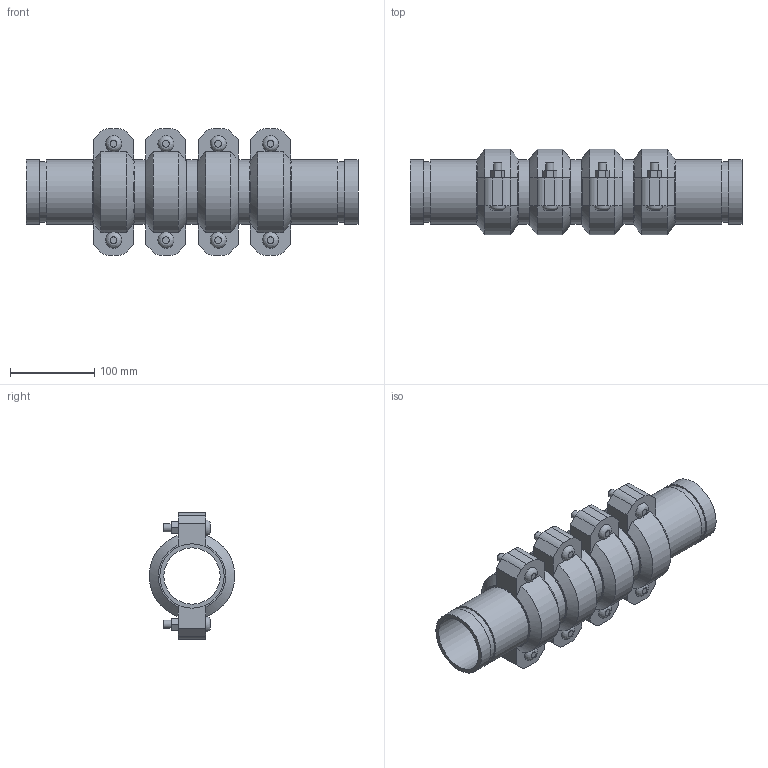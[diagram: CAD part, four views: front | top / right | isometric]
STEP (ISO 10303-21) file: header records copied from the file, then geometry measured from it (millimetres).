
FILE_DESCRIPTION(/* description */ ('VIC EXPANSION JOINT 4 COUPLINGS EXPANDED STYLE 155 (OGS)','CAx-IF Rec.Pracs.---Representation and Presentation of Product Manufacturing Information (PMI)---4.0---2014-10-13'),/* implementation_level */ '2;1');
FILE_NAME(/* name */ 'C:\Users\kkamble\AppData\Roaming\Autodesk\ApplicationPlugins\Victaulic.Temp\A310\Victaulic_IPS_Expansion Joint_Expanded_4 Couplings_Style 155 (OGS)_02.5 (76.1) (65).stp',/* time_stamp */ '2021-06-27T00:00:23+02:00',/* author */ ('kkamble'),/* organization */ ('Victaulic'),/* preprocessor_version */ 'ST-DEVELOPER v17.2',/* originating_system */ 'Autodesk Inventor 2019',/* authorisation */ '');
FILE_SCHEMA (('AP242_MANAGED_MODEL_BASED_3D_ENGINEERING_MIM_LF { 1 0 10303 442 1 1 4 }'));
Length unit declared in the file: inch
Products named in the file (4): 155-02.5 (76.1); Nipple-02.5 (76.1); Nipple-02.5 (76.1)_1; 075-02.5 (76.1)
Assembly tree (9 placements, depth 2):
  155-02.5 (76.1)
    Nipple-02.5 (76.1)  x2
    Nipple-02.5 (76.1)_1  x3
    075-02.5 (76.1)  x4
Bounding box: 393.45 x 101.25 x 149.86 mm (x, y, z)
Volume: 1262716.6 mm3; surface area: 374232.4 mm2
Topology: 9 solids, 17 shells, 288 faces, 698 edges, 488 vertices
Faces by surface type: plane 174, cylinder 90, cone 16, bspline 8
Full cylindrical faces by diameter (mm): 9.525 x16, 11.43 x8, 66.65 x5, 69.85 x4, 72.263 x10, 76.2 x23
Entity records: 2835 total; most frequent: CARTESIAN_POINT 525, DIRECTION 463, ORIENTED_EDGE 394, EDGE_CURVE 197, AXIS2_PLACEMENT_3D 184, VERTEX_POINT 140, EDGE_LOOP 105, LINE 95
